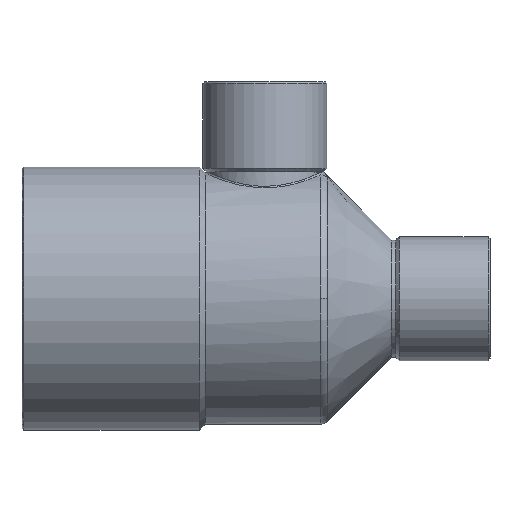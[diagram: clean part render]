
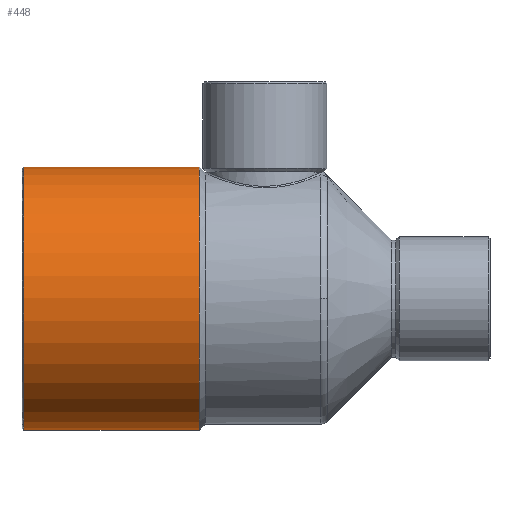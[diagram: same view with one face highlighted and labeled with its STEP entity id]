
A CAD part, top view. The second image highlights one B-rep face of the part: STEP entity #448.
In plain terms, the highlighted cylindrical face has radius 15.175 mm (diameter 30.35 mm), a partial arc.
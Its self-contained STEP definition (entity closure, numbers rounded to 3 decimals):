
#363=CARTESIAN_POINT('',(-7.497,15.175,0.0));
#364=VERTEX_POINT('',#363);
#373=CARTESIAN_POINT('',(-7.497,-15.175,0.));
#374=VERTEX_POINT('',#373);
#375=CARTESIAN_POINT('',(-7.497,0.0,0.0));
#376=DIRECTION('',(1.0,0.0,0.0));
#377=DIRECTION('',(0.0,1.0,0.0));
#378=AXIS2_PLACEMENT_3D('',#375,#376,#377);
#379=CIRCLE('',#378,15.175);
#380=EDGE_CURVE('',#364,#374,#379,.T.);
#417=CARTESIAN_POINT('',(-17.723,0.0,0.0));
#418=DIRECTION('',(1.0,0.0,0.0));
#419=DIRECTION('',(0.0,1.0,0.0));
#420=AXIS2_PLACEMENT_3D('',#417,#418,#419);
#421=CYLINDRICAL_SURFACE('',#420,15.175);
#422=CARTESIAN_POINT('',(-27.749,15.175,0.));
#423=VERTEX_POINT('',#422);
#424=CARTESIAN_POINT('',(-27.749,15.175,0.));
#425=DIRECTION('',(1.0,0.0,0.0));
#426=VECTOR('',#425,20.252);
#427=LINE('',#424,#426);
#428=EDGE_CURVE('',#423,#364,#427,.T.);
#429=ORIENTED_EDGE('',*,*,#428,.F.);
#430=CARTESIAN_POINT('',(-27.749,-15.175,0.));
#431=VERTEX_POINT('',#430);
#432=CARTESIAN_POINT('',(-27.749,0.0,0.0));
#433=DIRECTION('',(-1.0,0.0,0.0));
#434=DIRECTION('',(0.0,-1.0,0.0));
#435=AXIS2_PLACEMENT_3D('',#432,#433,#434);
#436=CIRCLE('',#435,15.175);
#437=EDGE_CURVE('',#431,#423,#436,.T.);
#438=ORIENTED_EDGE('',*,*,#437,.F.);
#439=CARTESIAN_POINT('',(-7.497,-15.175,0.));
#440=DIRECTION('',(-1.0,0.0,0.0));
#441=VECTOR('',#440,20.252);
#442=LINE('',#439,#441);
#443=EDGE_CURVE('',#374,#431,#442,.T.);
#444=ORIENTED_EDGE('',*,*,#443,.F.);
#445=ORIENTED_EDGE('',*,*,#380,.F.);
#446=EDGE_LOOP('',(#429,#438,#444,#445));
#447=FACE_OUTER_BOUND('',#446,.T.);
#448=ADVANCED_FACE('',(#447),#421,.T.);
